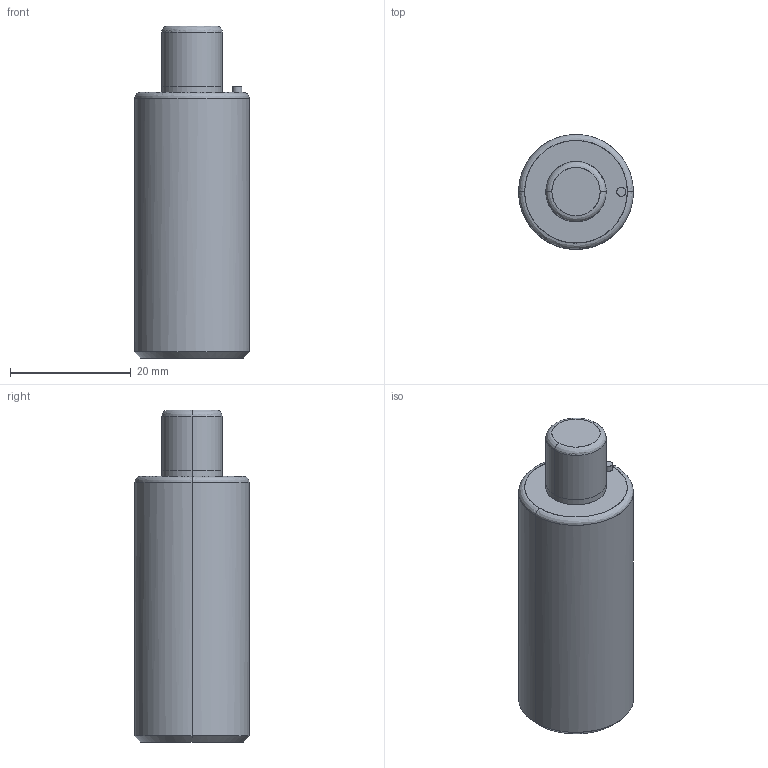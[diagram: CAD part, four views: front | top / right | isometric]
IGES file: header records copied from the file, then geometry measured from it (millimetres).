
Global section: file name: E:\UnigraphicsGraphicData\MISUMI_PRESS-PARTS\IGES\3d_mgsc19-10_04574_r00.igs; native system: NX V5.0; preprocessor: UGS NX IGES V5.0; author: MISUMI; date: 20110105.161435; units: millimetre
Bounding box: 19 x 18.96 x 55 mm (x, y, z)
Surface area: 3628.9 mm2 (no closed solid volume)
Topology: 0 solids, 0 shells, 24 faces, 136 edges, 134 vertices
Faces by surface type: bspline 24
